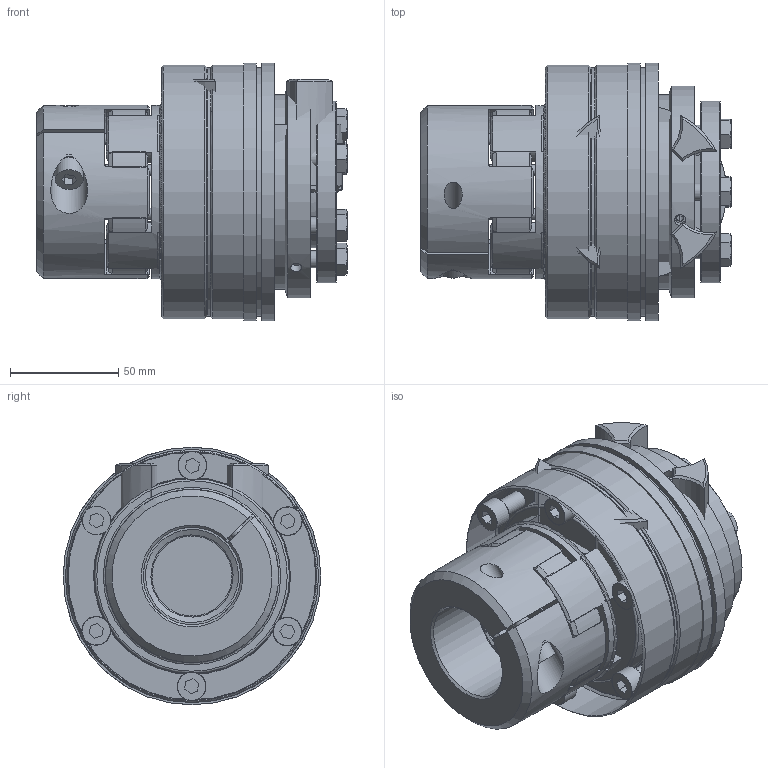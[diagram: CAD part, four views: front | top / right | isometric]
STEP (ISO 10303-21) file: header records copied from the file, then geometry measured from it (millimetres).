
FILE_DESCRIPTION( ( 'Unknown' ), '1' );
FILE_NAME( 'C:/Dokumente und Einstellungen/Sven/Desktop/hp kbk/E-KI/KBK EKI-38-137.stp', 'Unknown', ( 'Unknown' ), ( 'Unknown' ), 'XStep 1.0', 'Unknown', ' ' );
FILE_SCHEMA( ( 'automotive_design' ) );
Length unit declared in the file: millimetre
Products named in the file (17): Assem1; Assem2; Assem3; Zylinderschraube DIN 912_2; ball_bearing_-_6011_0_01; ball_bearing_-_6011_0_02; ball_bearing_-_6011_0_03; Kupplung L-I-300 Grundkörper; Konusbuchse 300; Stellring 300; Druckring 300; Flansch 300; a_55; din_en_24017_m8x30; Elastomerflansch 38; Zahnkranz_38_Standard; KBE 2 C - 38_Nabe
Bounding box: 143.5 x 119 x 119 mm (x, y, z)
Volume: 1627958.7 mm3; surface area: 509691.4 mm2
Topology: 43 solids, 43 shells, 1052 faces, 2366 edges, 1495 vertices
Faces by surface type: plane 357, cylinder 338, cone 297, torus 60
Full cylindrical faces by diameter (mm): 2.5 x4, 3.242 x6, 5 x16, 5.2 x6, 6.647 x30, 8 x16, 8.2 x12, 8.376 x2, 8.5 x12, 10.5 x2, 11.63 x7, 13 x9, 13.2 x12, 17 x2, 25 x4, 38 x4, 40 x2, 52 x4, 55 x7, 66.3 x6, 76 x6, 79.1 x6, 80 x2, 83.5 x2, 84 x2, 88 x2, 90 x7, 98 x2, 98.5 x2, 115 x4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
Entity records: 12120 total; most frequent: CARTESIAN_POINT 2873, DIRECTION 2014, ORIENTED_EDGE 1578, AXIS2_PLACEMENT_3D 936, EDGE_CURVE 789, EDGE_LOOP 642, VERTEX_POINT 565, FACE_OUTER_BOUND 516
